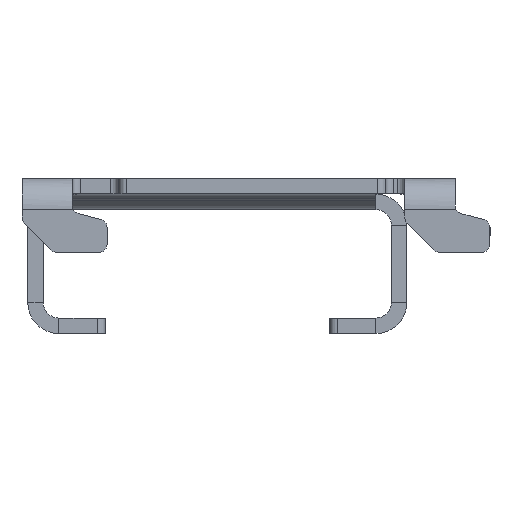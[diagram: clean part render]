
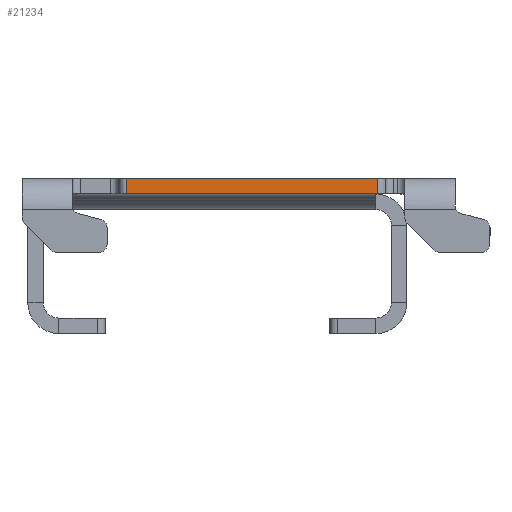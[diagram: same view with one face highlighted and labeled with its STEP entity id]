
A CAD part, left-side view. The second image highlights one B-rep face of the part: STEP entity #21234.
In plain terms, the highlighted planar face has unit normal (-1, 0, 0).
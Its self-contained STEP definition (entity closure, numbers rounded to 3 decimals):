
#1595 = ORIENTED_EDGE ( 'NONE', *, *, #11799, .F. ) ;
#3490 = EDGE_CURVE ( 'NONE', #24434, #11382, #10632, .T. ) ;
#3953 = VECTOR ( 'NONE', #20096, 1000. ) ;
#5440 = EDGE_CURVE ( 'NONE', #5734, #24434, #22705, .T. ) ;
#5734 = VERTEX_POINT ( 'NONE', #16977 ) ;
#6854 = CARTESIAN_POINT ( 'NONE',  ( -346.359, 25.25, 11.031 ) ) ;
#7175 = DIRECTION ( 'NONE',  ( 0., 0., 1. ) ) ;
#7319 = PLANE ( 'NONE',  #25550 ) ;
#10632 = LINE ( 'NONE', #27555, #23654 ) ;
#10698 = VERTEX_POINT ( 'NONE', #26539 ) ;
#10964 = DIRECTION ( 'NONE',  ( 0., 1., 0. ) ) ;
#11382 = VERTEX_POINT ( 'NONE', #15565 ) ;
#11799 = EDGE_CURVE ( 'NONE', #5734, #10698, #15532, .T. ) ;
#14678 = DIRECTION ( 'NONE',  ( 0., 0., -1. ) ) ;
#15532 = LINE ( 'NONE', #17969, #29480 ) ;
#15565 = CARTESIAN_POINT ( 'NONE',  ( -346.359, 11.75, 11.031 ) ) ;
#16977 = CARTESIAN_POINT ( 'NONE',  ( -346.359, -20.75, 9.031 ) ) ;
#17969 = CARTESIAN_POINT ( 'NONE',  ( -346.359, 0., 9.031 ) ) ;
#19069 = CARTESIAN_POINT ( 'NONE',  ( -346.359, 11.75, 9.031 ) ) ;
#19178 = EDGE_LOOP ( 'NONE', ( #1595, #19182, #29601, #30075 ) ) ;
#19182 = ORIENTED_EDGE ( 'NONE', *, *, #5440, .T. ) ;
#19374 = DIRECTION ( 'NONE',  ( -1., 0., 0. ) ) ;
#20096 = DIRECTION ( 'NONE',  ( 0., 0., 1. ) ) ;
#21234 = ADVANCED_FACE ( 'NONE', ( #26545 ), #7319, .T. ) ;
#22705 = LINE ( 'NONE', #27420, #3953 ) ;
#23654 = VECTOR ( 'NONE', #25590, 1000. ) ;
#24434 = VERTEX_POINT ( 'NONE', #25363 ) ;
#25363 = CARTESIAN_POINT ( 'NONE',  ( -346.359, -20.75, 11.031 ) ) ;
#25465 = EDGE_CURVE ( 'NONE', #11382, #10698, #31931, .T. ) ;
#25550 = AXIS2_PLACEMENT_3D ( 'NONE', #6854, #19374, #7175 ) ;
#25590 = DIRECTION ( 'NONE',  ( 0., 1., 0. ) ) ;
#26539 = CARTESIAN_POINT ( 'NONE',  ( -346.359, 11.75, 9.031 ) ) ;
#26545 = FACE_OUTER_BOUND ( 'NONE', #19178, .T. ) ;
#27420 = CARTESIAN_POINT ( 'NONE',  ( -346.359, -20.75, 11.031 ) ) ;
#27555 = CARTESIAN_POINT ( 'NONE',  ( -346.359, 25.25, 11.031 ) ) ;
#29480 = VECTOR ( 'NONE', #10964, 1000. ) ;
#29601 = ORIENTED_EDGE ( 'NONE', *, *, #3490, .T. ) ;
#30075 = ORIENTED_EDGE ( 'NONE', *, *, #25465, .T. ) ;
#31662 = VECTOR ( 'NONE', #14678, 1000. ) ;
#31931 = LINE ( 'NONE', #19069, #31662 ) ;
